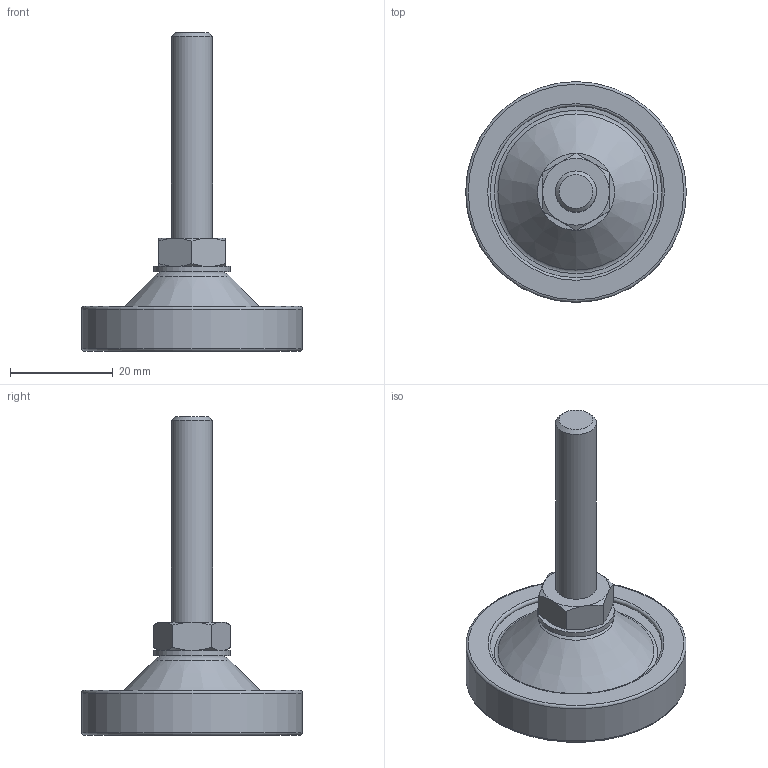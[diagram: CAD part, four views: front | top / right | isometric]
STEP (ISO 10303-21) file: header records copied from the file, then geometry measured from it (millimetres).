
FILE_DESCRIPTION(/* description */ (''),/* implementation_level */ '2;1');
FILE_NAME(/* name */ 'D:\조절자\PFR\PFR-M8-40L.stp',/* time_stamp */ '2016-03-14T15:04:54+09:00',/* author */ ('GS-DT-1-001'),/* organization */ (''),/* preprocessor_version */ 'ST-DEVELOPER v15.6',/* originating_system */ 'Autodesk Inventor LT ',/* authorisation */ '');
FILE_SCHEMA (('AUTOMOTIVE_DESIGN { 1 0 10303 214 3 1 1 }'));
Length unit declared in the file: millimetre
Products named in the file (1): PFR-M8-40L
Bounding box: 43 x 43 x 62 mm (x, y, z)
Volume: 13521.2 mm3; surface area: 9994.6 mm2
Topology: 5 solids, 5 shells, 71 faces, 135 edges, 81 vertices
Faces by surface type: plane 23, cone 22, torus 16, cylinder 10
Full cylindrical faces by diameter (mm): 3.422 x1, 4 x1, 4.2 x1, 4.3 x1, 8 x1, 8.4 x1, 15 x1, 37 x1, 37.4 x1, 43 x1
Entity records: 1526 total; most frequent: CARTESIAN_POINT 284, DIRECTION 272, ORIENTED_EDGE 182, AXIS2_PLACEMENT_3D 133, EDGE_LOOP 118, EDGE_CURVE 91, VERTEX_POINT 73, FACE_OUTER_BOUND 71
